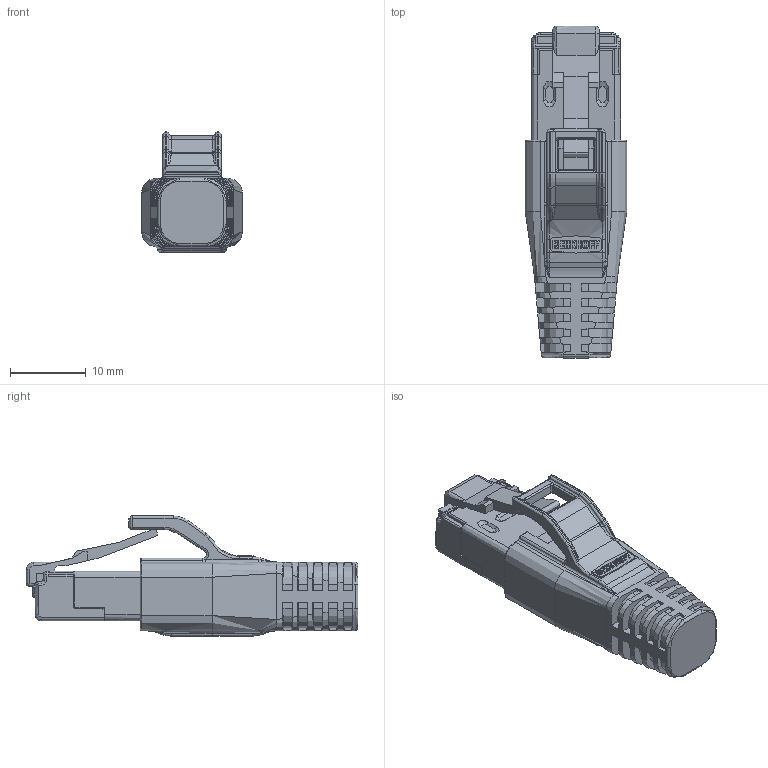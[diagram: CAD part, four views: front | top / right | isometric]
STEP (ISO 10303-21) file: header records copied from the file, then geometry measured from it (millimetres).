
FILE_DESCRIPTION(/* description */ ('','CAx-IF Rec.Pracs.---Representation and Presentation of Product Manufacturing Information (PMI)---3.8---2014-02-18'),/* implementation_level */ '2;1');
FILE_NAME(/* name */ 'C:\Users\FlorianVo\Desktop\STEPs\RJ45.stp',/* time_stamp */ '2019-03-01T09:32:15+01:00',/* author */ ('FlorianVo'),/* organization */ (''),/* preprocessor_version */ 'ST-DEVELOPER v16.13',/* originating_system */ 'Autodesk Inventor 2018',/* authorisation */ '');
FILE_SCHEMA (('AP242_MANAGED_MODEL_BASED_3D_ENGINEERING_MIM_LF { 1 0 10303 442 1 1 4 }'));
Length unit declared in the file: millimetre
Products named in the file (1): RJ45
Bounding box: 13.4 x 43.9 x 15.9 mm (x, y, z)
Volume: 4158.3 mm3; surface area: 3104.9 mm2
Topology: 1 solids, 7 shells, 1310 faces, 3550 edges, 2260 vertices
Faces by surface type: plane 824, cylinder 247, bspline 151, torus 80, cone 4, sphere 4
Entity records: 44754 total; most frequent: CARTESIAN_POINT 10614, ORIENTED_EDGE 7060, DIRECTION 6507, EDGE_CURVE 3538, LINE 2639, VECTOR 2639, VERTEX_POINT 2260, AXIS2_PLACEMENT_3D 1938
